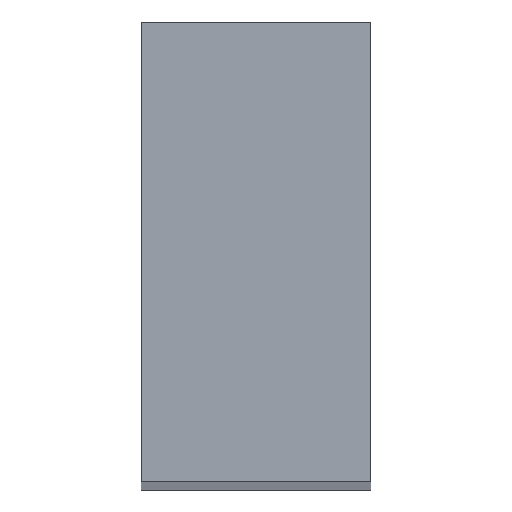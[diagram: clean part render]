
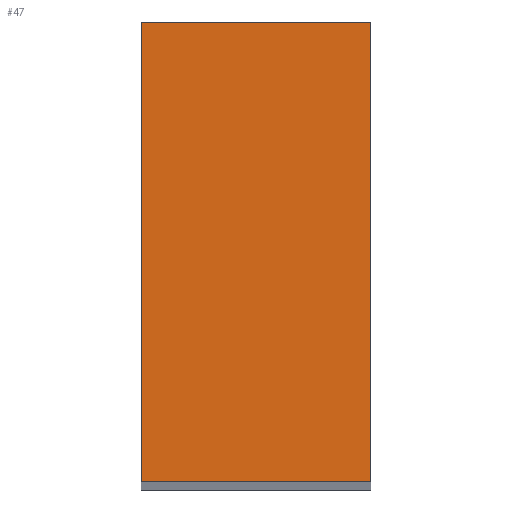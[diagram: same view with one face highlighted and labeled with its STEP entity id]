
A CAD part, top view. The second image highlights one B-rep face of the part: STEP entity #47.
In plain terms, the highlighted planar face has unit normal (0, 0, 1).
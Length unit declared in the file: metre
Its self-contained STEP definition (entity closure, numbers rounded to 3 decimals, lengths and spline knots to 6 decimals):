
#47 = ADVANCED_FACE( '', ( #55 ), #56, .T. );
#55 = FACE_OUTER_BOUND( '', #67, .T. );
#56 = PLANE( '', #68 );
#67 = EDGE_LOOP( '', ( #84, #85, #86, #87 ) );
#68 = AXIS2_PLACEMENT_3D( '', #88, #89, #90 );
#84 = ORIENTED_EDGE( '', *, *, #121, .T. );
#85 = ORIENTED_EDGE( '', *, *, #123, .T. );
#86 = ORIENTED_EDGE( '', *, *, #124, .T. );
#87 = ORIENTED_EDGE( '', *, *, #125, .T. );
#88 = CARTESIAN_POINT( '', ( 0., 0., 10. ) );
#89 = DIRECTION( '', ( 0., 0., 1. ) );
#90 = DIRECTION( '', ( 1., 0., 0. ) );
#121 = EDGE_CURVE( '', #136, #134, #137, .T. );
#123 = EDGE_CURVE( '', #134, #139, #140, .T. );
#124 = EDGE_CURVE( '', #139, #141, #142, .T. );
#125 = EDGE_CURVE( '', #141, #136, #143, .T. );
#134 = VERTEX_POINT( '', #155 );
#136 = VERTEX_POINT( '', #158 );
#137 = LINE( '', #159, #160 );
#139 = VERTEX_POINT( '', #163 );
#140 = LINE( '', #164, #165 );
#141 = VERTEX_POINT( '', #166 );
#142 = LINE( '', #167, #168 );
#143 = LINE( '', #169, #170 );
#155 = CARTESIAN_POINT( '', ( 0., 0., 10. ) );
#158 = CARTESIAN_POINT( '', ( 0., 1., 10. ) );
#159 = CARTESIAN_POINT( '', ( 0., 1., 10. ) );
#160 = VECTOR( '', #185, 1. );
#163 = CARTESIAN_POINT( '', ( 0.5, 0., 10. ) );
#164 = CARTESIAN_POINT( '', ( 0., 0., 10. ) );
#165 = VECTOR( '', #187, 1. );
#166 = CARTESIAN_POINT( '', ( 0.5, 1., 10. ) );
#167 = CARTESIAN_POINT( '', ( 0.5, 0., 10. ) );
#168 = VECTOR( '', #188, 1. );
#169 = CARTESIAN_POINT( '', ( 0.5, 1., 10. ) );
#170 = VECTOR( '', #189, 1. );
#185 = DIRECTION( '', ( 0., -1., 0. ) );
#187 = DIRECTION( '', ( 1., 0., 0. ) );
#188 = DIRECTION( '', ( 0., 1., 0. ) );
#189 = DIRECTION( '', ( -1., 0., 0. ) );
